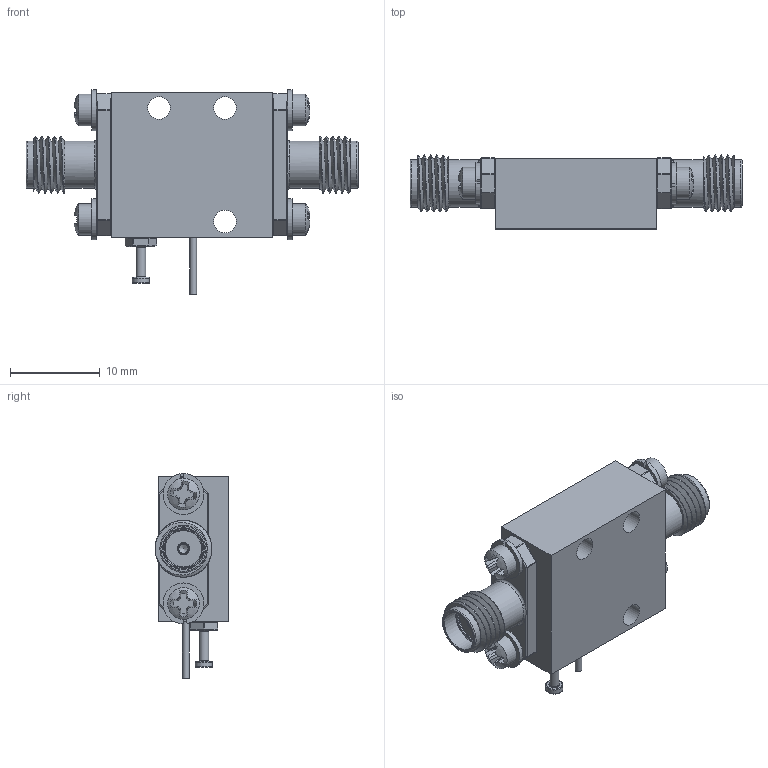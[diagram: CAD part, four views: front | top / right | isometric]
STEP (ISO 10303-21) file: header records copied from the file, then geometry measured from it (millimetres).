
FILE_DESCRIPTION (( 'STEP AP214' ), '1' );
FILE_NAME ('PEC4-16-50M18G-4R0-19-15-SFF.STEP', '2026-06-29T15:24:55', ( '' ), ( '' ), 'SwSTEP 2.0', 'SolidWorks 2025', '' );
FILE_SCHEMA (( 'AUTOMOTIVE_DESIGN' ));
Length unit declared in the file: inch
Products named in the file (1): PEC4-16-50M18G-4R0-19-15-SFF
Bounding box: 37.08 x 8.26 x 22.87 mm (x, y, z)
Volume: 2896 mm3; surface area: 3290.8 mm2
Topology: 18 solids, 18 shells, 579 faces, 2025 edges, 1582 vertices
Faces by surface type: plane 295, cylinder 121, sphere 60, torus 52, cone 31, bspline 20
Full cylindrical faces by diameter (mm): 0.305 x2, 0.508 x2, 0.762 x3, 1.016 x2, 1.067 x1, 1.27 x2, 1.93 x1, 2.184 x6, 2.54 x3, 2.591 x4, 3.302 x2, 3.556 x4, 4.191 x4, 4.597 x2, 5.283 x4
Entity records: 34892 total; most frequent: CARTESIAN_POINT 10000, ORIENTED_EDGE 3744, DIRECTION 3171, EDGE_CURVE 1872, VERTEX_POINT 1566, AXIS2_PLACEMENT_3D 1109, LINE 953, VECTOR 953
